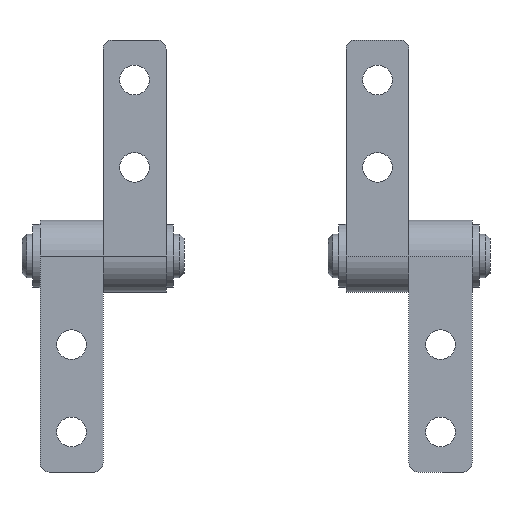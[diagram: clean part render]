
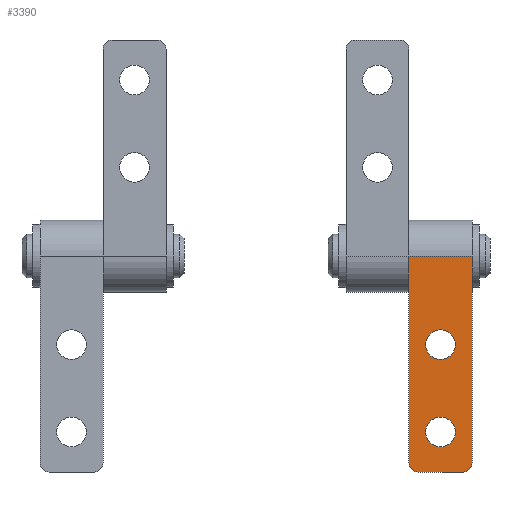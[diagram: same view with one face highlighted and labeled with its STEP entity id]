
A CAD part, front view. The second image highlights one B-rep face of the part: STEP entity #3390.
In plain terms, the highlighted planar face has unit normal (0, -1, 0).
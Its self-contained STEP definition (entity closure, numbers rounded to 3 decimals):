
#70 = CARTESIAN_POINT ( 'NONE',  ( 14., -4., 0. ) ) ;
#118 = CARTESIAN_POINT ( 'NONE',  ( 10.5, -4., -21.2 ) ) ;
#165 = EDGE_CURVE ( 'NONE', #418, #2507, #1922, .T. ) ;
#282 = DIRECTION ( 'NONE',  ( 0., -1., 0. ) ) ;
#342 = VECTOR ( 'NONE', #2022, 1000. ) ;
#391 = LINE ( 'NONE', #5033, #342 ) ;
#396 = DIRECTION ( 'NONE',  ( 0., 1., 0. ) ) ;
#418 = VERTEX_POINT ( 'NONE', #4026 ) ;
#459 = CARTESIAN_POINT ( 'NONE',  ( 10.5, -4., -8.2 ) ) ;
#476 = DIRECTION ( 'NONE',  ( 0., 0., -1. ) ) ;
#491 = DIRECTION ( 'NONE',  ( -1., 0., 0. ) ) ;
#622 = VERTEX_POINT ( 'NONE', #3396 ) ;
#650 = FACE_OUTER_BOUND ( 'NONE', #1617, .T. ) ;
#651 = VERTEX_POINT ( 'NONE', #2227 ) ;
#659 = DIRECTION ( 'NONE',  ( 0., 0., 1. ) ) ;
#755 = CIRCLE ( 'NONE', #4416, 1. ) ;
#860 = CARTESIAN_POINT ( 'NONE',  ( 7., -4., 0. ) ) ;
#892 = ORIENTED_EDGE ( 'NONE', *, *, #3900, .T. ) ;
#987 = ORIENTED_EDGE ( 'NONE', *, *, #4084, .F. ) ;
#1239 = DIRECTION ( 'NONE',  ( 0., 0., -1. ) ) ;
#1309 = DIRECTION ( 'NONE',  ( 0., 0., 1. ) ) ;
#1335 = DIRECTION ( 'NONE',  ( 0., -1., 0. ) ) ;
#1460 = EDGE_LOOP ( 'NONE', ( #2150, #2971 ) ) ;
#1469 = VERTEX_POINT ( 'NONE', #2005 ) ;
#1553 = DIRECTION ( 'NONE',  ( 0., 0., 1. ) ) ;
#1563 = ORIENTED_EDGE ( 'NONE', *, *, #165, .T. ) ;
#1565 = CIRCLE ( 'NONE', #4644, 1.65 ) ;
#1576 = VECTOR ( 'NONE', #491, 1000. ) ;
#1617 = EDGE_LOOP ( 'NONE', ( #987, #2189, #3631, #892, #2966, #4505 ) ) ;
#1630 = LINE ( 'NONE', #860, #2264 ) ;
#1854 = DIRECTION ( 'NONE',  ( 0., 0., 1. ) ) ;
#1868 = PLANE ( 'NONE',  #3305 ) ;
#1877 = CARTESIAN_POINT ( 'NONE',  ( 10.5, -4., -9.85 ) ) ;
#1916 = CARTESIAN_POINT ( 'NONE',  ( 14., -4., 0. ) ) ;
#1922 = CIRCLE ( 'NONE', #3383, 1.65 ) ;
#1934 = EDGE_LOOP ( 'NONE', ( #2587, #1563 ) ) ;
#2005 = CARTESIAN_POINT ( 'NONE',  ( 10.5, -4., -17.9 ) ) ;
#2022 = DIRECTION ( 'NONE',  ( -1., 0., 0. ) ) ;
#2108 = AXIS2_PLACEMENT_3D ( 'NONE', #4676, #396, #1553 ) ;
#2150 = ORIENTED_EDGE ( 'NONE', *, *, #4464, .T. ) ;
#2178 = EDGE_CURVE ( 'NONE', #2507, #418, #1565, .T. ) ;
#2189 = ORIENTED_EDGE ( 'NONE', *, *, #2763, .T. ) ;
#2227 = CARTESIAN_POINT ( 'NONE',  ( 13., -4., -24. ) ) ;
#2264 = VECTOR ( 'NONE', #476, 1000. ) ;
#2268 = DIRECTION ( 'NONE',  ( 0., 0., 1. ) ) ;
#2489 = CARTESIAN_POINT ( 'NONE',  ( 14., -4., -23. ) ) ;
#2507 = VERTEX_POINT ( 'NONE', #459 ) ;
#2517 = VECTOR ( 'NONE', #1239, 1000. ) ;
#2587 = ORIENTED_EDGE ( 'NONE', *, *, #2178, .T. ) ;
#2636 = FACE_BOUND ( 'NONE', #1460, .T. ) ;
#2692 = CARTESIAN_POINT ( 'NONE',  ( 8., -4., -24. ) ) ;
#2707 = VERTEX_POINT ( 'NONE', #4486 ) ;
#2718 = AXIS2_PLACEMENT_3D ( 'NONE', #2827, #1335, #1309 ) ;
#2763 = EDGE_CURVE ( 'NONE', #651, #4843, #755, .T. ) ;
#2827 = CARTESIAN_POINT ( 'NONE',  ( 8., -4., -23. ) ) ;
#2920 = AXIS2_PLACEMENT_3D ( 'NONE', #4158, #3049, #659 ) ;
#2922 = VERTEX_POINT ( 'NONE', #2692 ) ;
#2966 = ORIENTED_EDGE ( 'NONE', *, *, #3602, .T. ) ;
#2971 = ORIENTED_EDGE ( 'NONE', *, *, #3478, .T. ) ;
#3049 = DIRECTION ( 'NONE',  ( 0., 1., 0. ) ) ;
#3202 = CARTESIAN_POINT ( 'NONE',  ( 14., -4., -24. ) ) ;
#3299 = LINE ( 'NONE', #3202, #1576 ) ;
#3305 = AXIS2_PLACEMENT_3D ( 'NONE', #1916, #4197, #4984 ) ;
#3383 = AXIS2_PLACEMENT_3D ( 'NONE', #4327, #3981, #5045 ) ;
#3390 = ADVANCED_FACE ( 'NONE', ( #2636, #4960, #650 ), #1868, .F. ) ;
#3391 = CIRCLE ( 'NONE', #2108, 1.65 ) ;
#3396 = CARTESIAN_POINT ( 'NONE',  ( 14., -4., 0. ) ) ;
#3478 = EDGE_CURVE ( 'NONE', #4970, #1469, #3391, .T. ) ;
#3574 = LINE ( 'NONE', #70, #2517 ) ;
#3597 = EDGE_CURVE ( 'NONE', #622, #4843, #3574, .T. ) ;
#3602 = EDGE_CURVE ( 'NONE', #2707, #4758, #1630, .T. ) ;
#3631 = ORIENTED_EDGE ( 'NONE', *, *, #3597, .F. ) ;
#3742 = DIRECTION ( 'NONE',  ( 0., 1., 0. ) ) ;
#3900 = EDGE_CURVE ( 'NONE', #622, #2707, #391, .T. ) ;
#3981 = DIRECTION ( 'NONE',  ( 0., 1., 0. ) ) ;
#4026 = CARTESIAN_POINT ( 'NONE',  ( 10.5, -4., -11.5 ) ) ;
#4062 = EDGE_CURVE ( 'NONE', #4758, #2922, #4903, .T. ) ;
#4084 = EDGE_CURVE ( 'NONE', #651, #2922, #3299, .T. ) ;
#4158 = CARTESIAN_POINT ( 'NONE',  ( 10.5, -4., -19.55 ) ) ;
#4197 = DIRECTION ( 'NONE',  ( 0., 1., 0. ) ) ;
#4279 = CARTESIAN_POINT ( 'NONE',  ( 13., -4., -23. ) ) ;
#4327 = CARTESIAN_POINT ( 'NONE',  ( 10.5, -4., -9.85 ) ) ;
#4416 = AXIS2_PLACEMENT_3D ( 'NONE', #4279, #282, #1854 ) ;
#4453 = CIRCLE ( 'NONE', #2920, 1.65 ) ;
#4464 = EDGE_CURVE ( 'NONE', #1469, #4970, #4453, .T. ) ;
#4486 = CARTESIAN_POINT ( 'NONE',  ( 7., -4., 0. ) ) ;
#4505 = ORIENTED_EDGE ( 'NONE', *, *, #4062, .T. ) ;
#4644 = AXIS2_PLACEMENT_3D ( 'NONE', #1877, #3742, #2268 ) ;
#4676 = CARTESIAN_POINT ( 'NONE',  ( 10.5, -4., -19.55 ) ) ;
#4704 = CARTESIAN_POINT ( 'NONE',  ( 7., -4., -23. ) ) ;
#4758 = VERTEX_POINT ( 'NONE', #4704 ) ;
#4843 = VERTEX_POINT ( 'NONE', #2489 ) ;
#4903 = CIRCLE ( 'NONE', #2718, 1. ) ;
#4960 = FACE_BOUND ( 'NONE', #1934, .T. ) ;
#4970 = VERTEX_POINT ( 'NONE', #118 ) ;
#4984 = DIRECTION ( 'NONE',  ( 0., 0., 1. ) ) ;
#5033 = CARTESIAN_POINT ( 'NONE',  ( 14., -4., 0. ) ) ;
#5045 = DIRECTION ( 'NONE',  ( 0., 0., 1. ) ) ;
